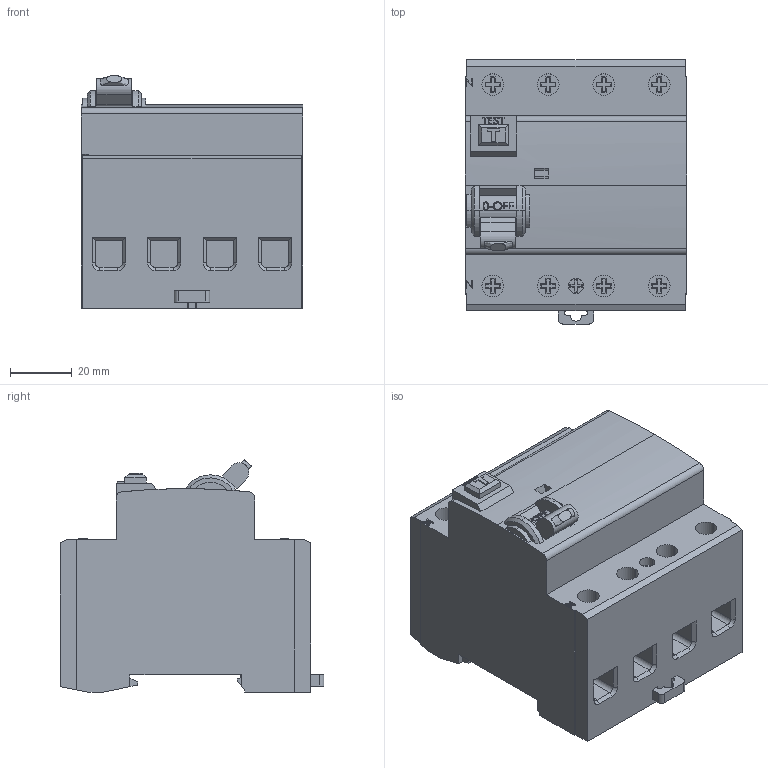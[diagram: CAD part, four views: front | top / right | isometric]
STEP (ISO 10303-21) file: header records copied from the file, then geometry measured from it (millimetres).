
FILE_DESCRIPTION (( 'STEP AP203' ), '1' );
FILE_NAME ('DRA25-403.STEP', '2018-05-11T12:47:15', ( '' ), ( '' ), 'SwSTEP 2.0', 'SolidWorks 2012', '' );
FILE_SCHEMA (( 'CONFIG_CONTROL_DESIGN' ));
Length unit declared in the file: millimetre
Products named in the file (1): DRA25-403
Bounding box: 72 x 85.6 x 75.36 mm (x, y, z)
Volume: 314546.7 mm3; surface area: 37912.2 mm2
Topology: 2 solids, 2 shells, 509 faces, 1337 edges, 873 vertices
Faces by surface type: plane 387, cylinder 69, bspline 34, cone 19
Entity records: 19300 total; most frequent: CARTESIAN_POINT 6789, ORIENTED_EDGE 2674, DIRECTION 2369, EDGE_CURVE 1337, VECTOR 1063, LINE 1063, VERTEX_POINT 873, AXIS2_PLACEMENT_3D 653
